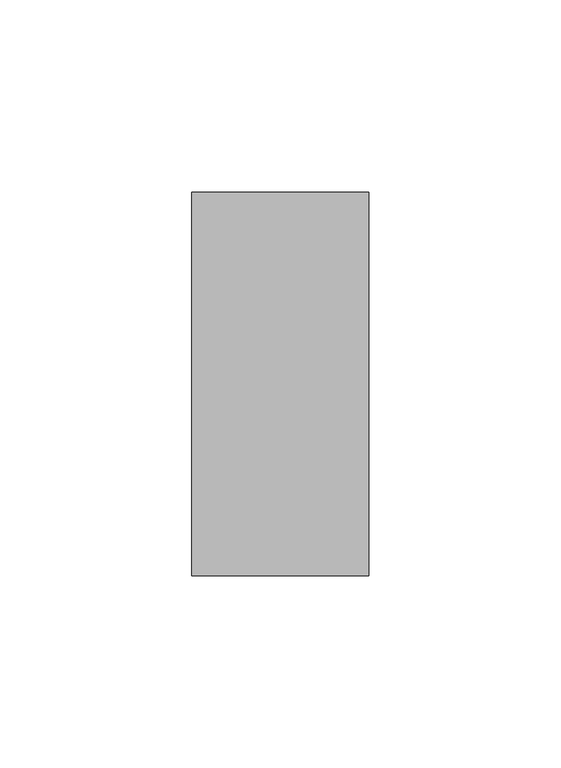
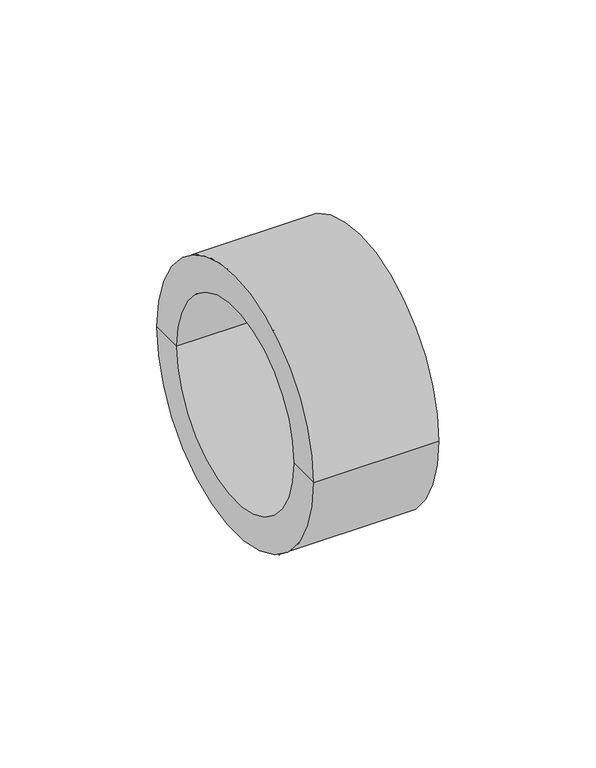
"""IFC4 building model written with IfcOpenShell, lengths in millimetres: pipe fitting geometry, EGB_VASEN_ PPR_Tapon WXR700 : Tapón WXR700."""

from ifc_helpers import new_model, si_unit, frame, origin, place, context, project, spatial, polyline, circle_curve, source, transform, mapped, element, save
from ifc_brep_helpers import plane_surface, cylinder_surface, revolved_surface, advanced_brep


def pipe_fitting_34e89a08(model_context):
    return source(origin(), model_context, "Body", "AdvancedBrep", [
        advanced_brep(
        [(0.0, -50.0, 0.0), (0.0, 50.0, 0.0), (46.0, 50.0, 0.0), (46.0, -50.0, 0.0), (0.0, -37.5, 0.0), (0.0, 37.5, 0.0), (33.5, -37.5, 0.0), (33.5, 37.5, 0.0), (33.5, 0.0, 0.0), (46.0, 0.0, 0.0)],
        [
            (0, 1, circle_curve(frame((0.0, 0.0, 0.0), z_axis=(1.0, 0.0, 0.0), x_axis=(0.0, 1.0, 0.0)), 50.0)),
            (1, 2),
            (2, 3, circle_curve(frame((46.0, 0.0, 0.0), z_axis=(-1.0, 0.0, 0.0), x_axis=(0.0, 1.0, 0.0)), 50.0)),
            (3, 0),
            (1, 0, circle_curve(frame((0.0, 0.0, 0.0), z_axis=(1.0, 0.0, 0.0), x_axis=(0.0, 1.0, 0.0)), 50.0)),
            (3, 2, circle_curve(frame((46.0, 0.0, 0.0), z_axis=(-1.0, 0.0, 0.0), x_axis=(0.0, 1.0, 0.0)), 50.0)),
            (4, 5, circle_curve(frame((0.0, 0.0, 0.0), z_axis=(1.0, 0.0, 0.0), x_axis=(0.0, 1.0, 0.0)), 37.5)),
            (5, 1),
            (0, 4),
            (5, 4, circle_curve(frame((0.0, 0.0, 0.0), z_axis=(1.0, 0.0, 0.0), x_axis=(0.0, 1.0, 0.0)), 37.5)),
            (6, 7, circle_curve(frame((33.5, 0.0, 0.0), z_axis=(1.0, 0.0, 0.0), x_axis=(0.0, 1.0, 0.0)), 37.5)),
            (7, 5),
            (4, 6),
            (7, 6, circle_curve(frame((33.5, 0.0, 0.0), z_axis=(1.0, 0.0, 0.0), x_axis=(0.0, 1.0, 0.0)), 37.5)),
            (8, 7),
            (6, 8),
            (2, 9),
            (9, 3),
        ],
        [
            cylinder_surface(frame((26.758615, 0.0, 0.0), z_axis=(-1.0, 0.0, 0.0), x_axis=(0.0, 1.0, 0.0)), 50.0),
            plane_surface(frame((0.0, 0.0, 0.0), z_axis=(-1.0, 0.0, 0.0), x_axis=(0.0, 1.0, 0.0))),
            revolved_surface(polyline([(0.0, 37.5, 0.0), (33.5, 37.5, 0.0)]), (26.758615, 0.0, 0.0), (-1.0, 0.0, 0.0)),
            plane_surface(frame((33.5, 0.0, 0.0), z_axis=(-1.0, 0.0, 0.0), x_axis=(0.0, 1.0, 0.0))),
            plane_surface(frame((46.0, 0.0, 0.0), z_axis=(1.0, 0.0, 0.0), x_axis=(0.0, 1.0, 0.0))),
        ],
        [
            (0, [[1, 2, 3, 4]]),
            (0, [[5, -4, 6, -2]]),
            (1, [[7, 8, -1, 9]]),
            (1, [[10, -9, -5, -8]]),
            (2, [[11, 12, -7, 13]]),
            (2, [[14, -13, -10, -12]]),
            (3, [[15, -11, 16]]),
            (3, [[-16, -14, -15]]),
            (4, [[-3, 17, 18]]),
            (4, [[-6, -18, -17]]),
        ],
    ),
    ])


if __name__ == "__main__":
    model = new_model("IFC4")
    model_context = context("Model", 3, world=origin())
    ifc_project = project(units=[si_unit("LENGTHUNIT", "METRE", prefix="MILLI")], contexts=[model_context])
    site = spatial("IfcSite", under=ifc_project)
    building = spatial("IfcBuilding", under=site)
    placement = place(None, origin())
    pipe_fitting_shape = pipe_fitting_34e89a08(model_context)
    element("IfcPipeFitting", 1, ObjectType="EGB_VASEN_ PPR_Tapon WXR700 : Tapón WXR700", at=placement, inside=building, context=model_context, shape_type="MappedRepresentation", body=[
        mapped(pipe_fitting_shape, transform((0.0, 0.0, 0.0), x_axis=(1.0, 0.0, 0.0), y_axis=(0.0, 1.0, 0.0), z_axis=(0.0, 0.0, 1.0))),
    ])
    save(model, "model.ifc")
